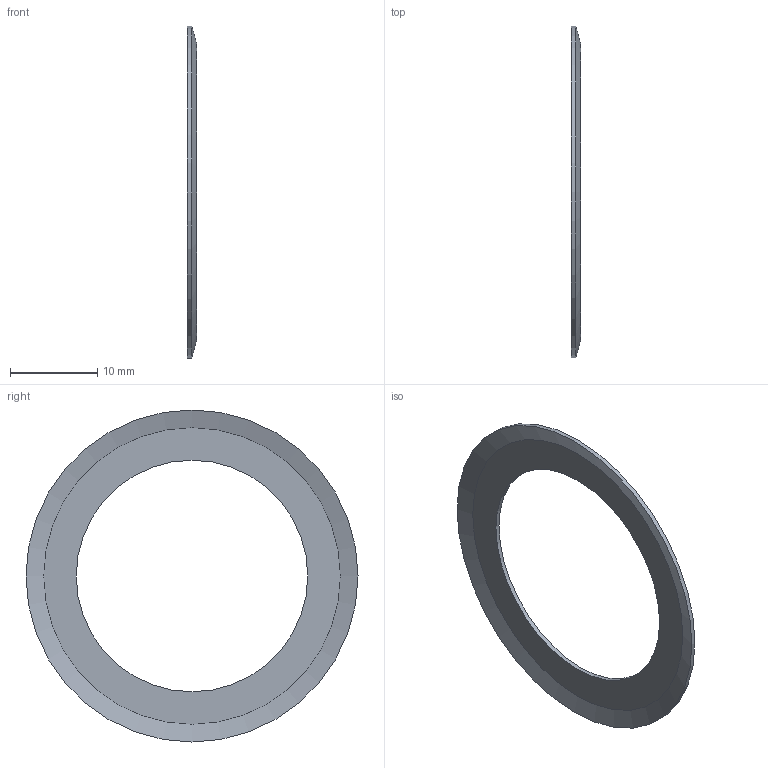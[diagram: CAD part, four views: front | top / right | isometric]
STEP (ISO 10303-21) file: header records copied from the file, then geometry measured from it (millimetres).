
FILE_DESCRIPTION(/* description */ ('FLANGIA TIPO 511'),/* implementation_level */ '2;1');
FILE_NAME(/* name */ 'w:\documenti\Disegni dwg\Catalogo\Flange\Nuova cartella\49200511.stp',/* time_stamp */ '2023-05-09T11:50:01+02:00',/* author */ ('carlo.bersi'),/* organization */ (''),/* preprocessor_version */ 'ST-DEVELOPER v19',/* originating_system */ 'Autodesk Inventor 2023',/* authorisation */ '');
FILE_SCHEMA (('CONFIG_CONTROL_DESIGN'));
Length unit declared in the file: millimetre
Products named in the file (1): 49200511
Bounding box: 1.04 x 38 x 38 mm (x, y, z)
Volume: 291.3 mm3; surface area: 1282.4 mm2
Topology: 1 solids, 1 shells, 6 faces, 10 edges, 6 vertices
Faces by surface type: cone 2, cylinder 2, plane 2
Full cylindrical faces by diameter (mm): 26.5 x1, 38 x1
Entity records: 191 total; most frequent: DIRECTION 30, CARTESIAN_POINT 23, ORIENTED_EDGE 20, AXIS2_PLACEMENT_3D 13, EDGE_CURVE 10, EDGE_LOOP 8, FACE_OUTER_BOUND 6, CIRCLE 6
